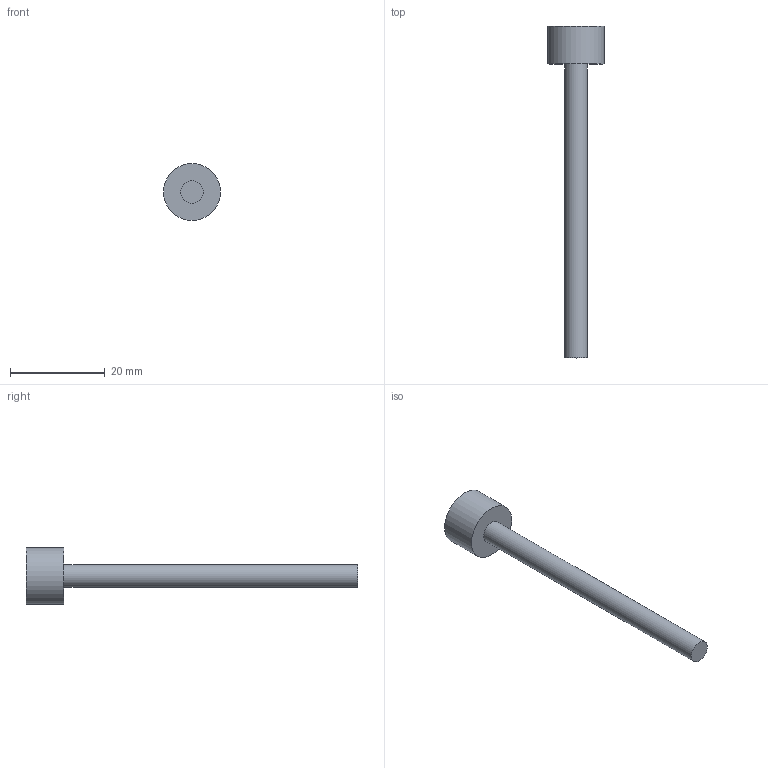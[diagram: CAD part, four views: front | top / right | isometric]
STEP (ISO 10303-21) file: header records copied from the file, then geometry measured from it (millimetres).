
FILE_DESCRIPTION(('Open CASCADE Model'),'2;1');
FILE_NAME('Open CASCADE Shape Model','2026-10-18T02:27:58',('Author'),( 'Open CASCADE'),'Open CASCADE STEP processor 7.9','Open CASCADE 7.9' ,'Unknown');
FILE_SCHEMA(('AUTOMOTIVE_DESIGN { 1 0 10303 214 1 1 1 1 }'));
Length unit declared in the file: millimetre
Products named in the file (1): Open CASCADE STEP translator 7.9 12
Bounding box: 12 x 70 x 12 mm (x, y, z)
Volume: 2008.1 mm3; surface area: 1454.9 mm2
Topology: 1 solids, 1 shells, 5 faces, 6 edges, 4 vertices
Faces by surface type: plane 3, cylinder 2
Full cylindrical faces by diameter (mm): 4.76 x1, 12 x1
Entity records: 192 total; most frequent: DIRECTION 34, CARTESIAN_POINT 28, ORIENTED_EDGE 12, PCURVE 12, DEFINITIONAL_REPRESENTATION 12, AXIS2_PLACEMENT_3D 10, LINE 10, VECTOR 10
